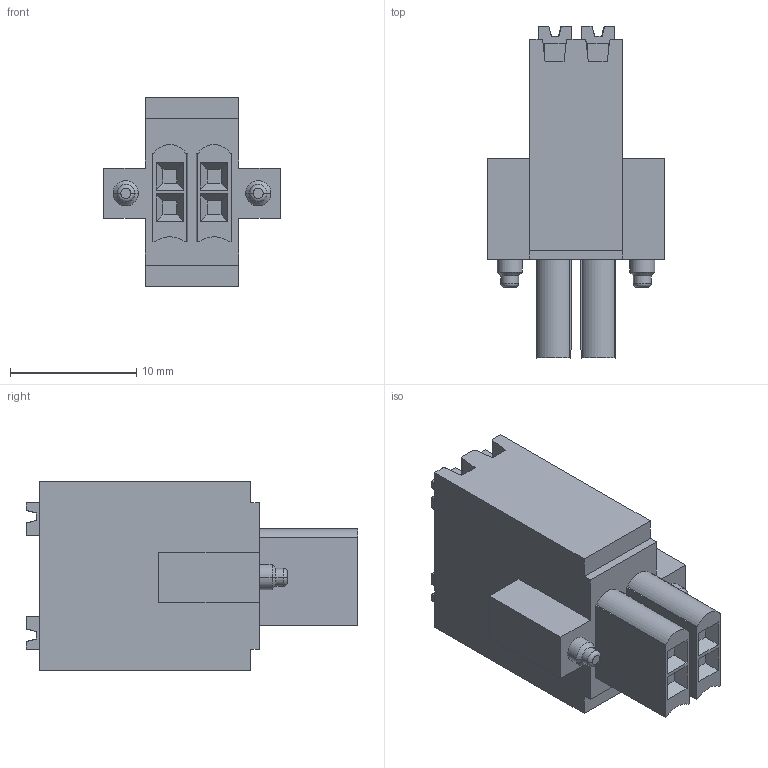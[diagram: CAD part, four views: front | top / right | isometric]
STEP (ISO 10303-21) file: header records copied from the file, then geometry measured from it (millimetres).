
FILE_DESCRIPTION((''),'2;1');
FILE_NAME('04P','2020-05-28T',('Administrator'),(''),'PRO/ENGINEER BY PARAMETRIC TECHNOLOGY CORPORATION, 2012360','PRO/ENGINEER BY PARAMETRIC TECHNOLOGY CORPORATION, 2012360','');
FILE_SCHEMA(('CONFIG_CONTROL_DESIGN'));
Length unit declared in the file: millimetre
Products named in the file (1): 04P
Bounding box: 14 x 26.3 x 15 mm (x, y, z)
Volume: 2319.9 mm3; surface area: 1871 mm2
Topology: 1 solids, 1 shells, 300 faces, 860 edges, 572 vertices
Faces by surface type: plane 240, cylinder 40, cone 12, torus 8
Entity records: 9842 total; most frequent: CARTESIAN_POINT 1912, ORIENTED_EDGE 1720, DIRECTION 1536, EDGE_CURVE 860, VECTOR 664, LINE 664, VERTEX_POINT 572, AXIS2_PLACEMENT_3D 436
